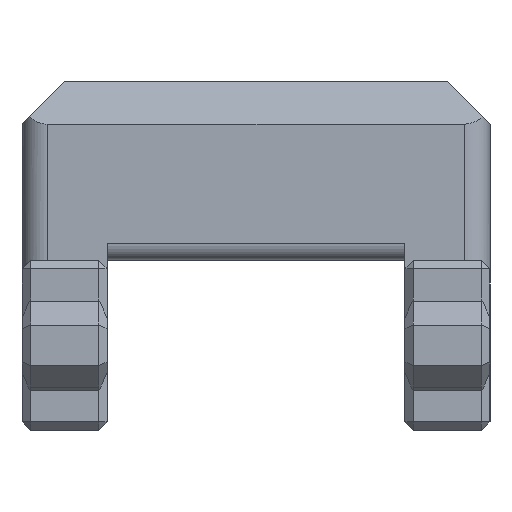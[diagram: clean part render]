
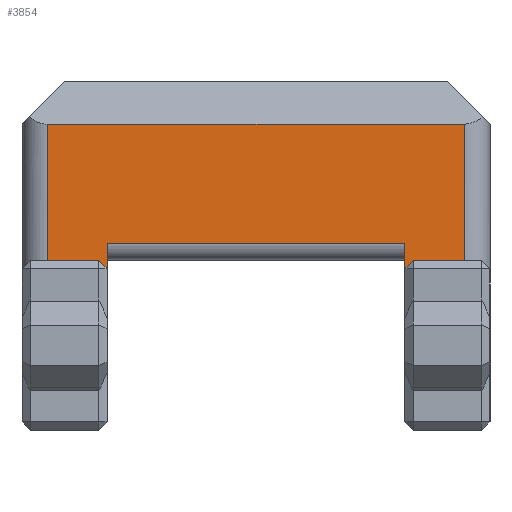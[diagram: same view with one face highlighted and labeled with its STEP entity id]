
A CAD part, left-side view. The second image highlights one B-rep face of the part: STEP entity #3854.
In plain terms, the highlighted planar face has unit normal (-1, 0, 0).
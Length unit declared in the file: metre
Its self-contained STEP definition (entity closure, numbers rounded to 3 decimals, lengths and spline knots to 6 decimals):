
#51=ORIENTED_EDGE('',*,*,#1183,.T.);
#52=ORIENTED_EDGE('',*,*,#1184,.F.);
#53=ORIENTED_EDGE('',*,*,#1185,.T.);
#54=ORIENTED_EDGE('',*,*,#1186,.T.);
#55=ORIENTED_EDGE('',*,*,#1187,.T.);
#56=ORIENTED_EDGE('',*,*,#1188,.T.);
#57=ORIENTED_EDGE('',*,*,#1189,.T.);
#58=ORIENTED_EDGE('',*,*,#1190,.F.);
#59=ORIENTED_EDGE('',*,*,#1191,.T.);
#60=ORIENTED_EDGE('',*,*,#1192,.F.);
#1183=EDGE_CURVE('',#1749,#1750,#2087,.T.);
#1184=EDGE_CURVE('',#1751,#1750,#2088,.T.);
#1185=EDGE_CURVE('',#1751,#1752,#2089,.F.);
#1186=EDGE_CURVE('',#1752,#1753,#2090,.T.);
#1187=EDGE_CURVE('',#1753,#1754,#2091,.F.);
#1188=EDGE_CURVE('',#1754,#1755,#2092,.T.);
#1189=EDGE_CURVE('',#1755,#1756,#2093,.T.);
#1190=EDGE_CURVE('',#1757,#1756,#2094,.T.);
#1191=EDGE_CURVE('',#1757,#1758,#2095,.F.);
#1192=EDGE_CURVE('',#1749,#1758,#2096,.T.);
#1749=VERTEX_POINT('',#5422);
#1750=VERTEX_POINT('',#5423);
#1751=VERTEX_POINT('',#5425);
#1752=VERTEX_POINT('',#5427);
#1753=VERTEX_POINT('',#5429);
#1754=VERTEX_POINT('',#5431);
#1755=VERTEX_POINT('',#5433);
#1756=VERTEX_POINT('',#5435);
#1757=VERTEX_POINT('',#5437);
#1758=VERTEX_POINT('',#5439);
#2087=LINE('',#5421,#2627);
#2088=LINE('',#5424,#2628);
#2089=LINE('',#5426,#2629);
#2090=LINE('',#5428,#2630);
#2091=LINE('',#5430,#2631);
#2092=LINE('',#5432,#2632);
#2093=LINE('',#5434,#2633);
#2094=LINE('',#5436,#2634);
#2095=LINE('',#5438,#2635);
#2096=LINE('',#5440,#2636);
#2627=VECTOR('',#4364,1.);
#2628=VECTOR('',#4365,1.);
#2629=VECTOR('',#4366,1.);
#2630=VECTOR('',#4367,1.);
#2631=VECTOR('',#4368,1.);
#2632=VECTOR('',#4369,1.);
#2633=VECTOR('',#4370,1.);
#2634=VECTOR('',#4371,1.);
#2635=VECTOR('',#4372,1.);
#2636=VECTOR('',#4373,1.);
#3164=EDGE_LOOP('',(#51,#52,#53,#54,#55,#56,#57,#58,#59,#60));
#3398=FACE_BOUND('',#3164,.T.);
#3632=PLANE('',#4098);
#3854=ADVANCED_FACE('',(#3398),#3632,.F.);
#4098=AXIS2_PLACEMENT_3D('',#5420,#4362,#4363);
#4362=DIRECTION('',(1.,0.,0.));
#4363=DIRECTION('',(0.,1.,0.));
#4364=DIRECTION('',(0.,-1.,0.));
#4365=DIRECTION('',(0.,0.,1.));
#4366=DIRECTION('',(0.,0.707,-0.707));
#4367=DIRECTION('',(0.,-1.,0.));
#4368=DIRECTION('',(0.,0.,-1.));
#4369=DIRECTION('',(0.,1.,0.));
#4370=DIRECTION('',(0.,0.,-1.));
#4371=DIRECTION('',(0.,1.,0.));
#4372=DIRECTION('',(0.,0.707,0.707));
#4373=DIRECTION('',(0.,0.,-1.));
#5420=CARTESIAN_POINT('',(-0.025,0.,0.0427));
#5421=CARTESIAN_POINT('',(-0.025,-0.0175,0.0237));
#5422=CARTESIAN_POINT('',(-0.025,0.0175,0.0237));
#5423=CARTESIAN_POINT('',(-0.025,-0.0175,0.0237));
#5424=CARTESIAN_POINT('',(-0.025,-0.0175,0.0427));
#5425=CARTESIAN_POINT('',(-0.025,-0.0175,0.0207));
#5426=CARTESIAN_POINT('',(-0.025,-0.01975,0.02295));
#5427=CARTESIAN_POINT('',(-0.025,-0.0185,0.0217));
#5428=CARTESIAN_POINT('',(-0.025,-0.0225,0.0217));
#5429=CARTESIAN_POINT('',(-0.025,-0.0245,0.0217));
#5430=CARTESIAN_POINT('',(-0.025,-0.0245,0.0377));
#5431=CARTESIAN_POINT('',(-0.025,-0.0245,0.0377));
#5432=CARTESIAN_POINT('',(-0.025,0.0275,0.0377));
#5433=CARTESIAN_POINT('',(-0.025,0.0245,0.0377));
#5434=CARTESIAN_POINT('',(-0.025,0.0245,0.0427));
#5435=CARTESIAN_POINT('',(-0.025,0.0245,0.0217));
#5436=CARTESIAN_POINT('',(-0.025,0.0225,0.0217));
#5437=CARTESIAN_POINT('',(-0.025,0.0185,0.0217));
#5438=CARTESIAN_POINT('',(-0.025,0.01975,0.02295));
#5439=CARTESIAN_POINT('',(-0.025,0.0175,0.0207));
#5440=CARTESIAN_POINT('',(-0.025,0.0175,0.0267));
